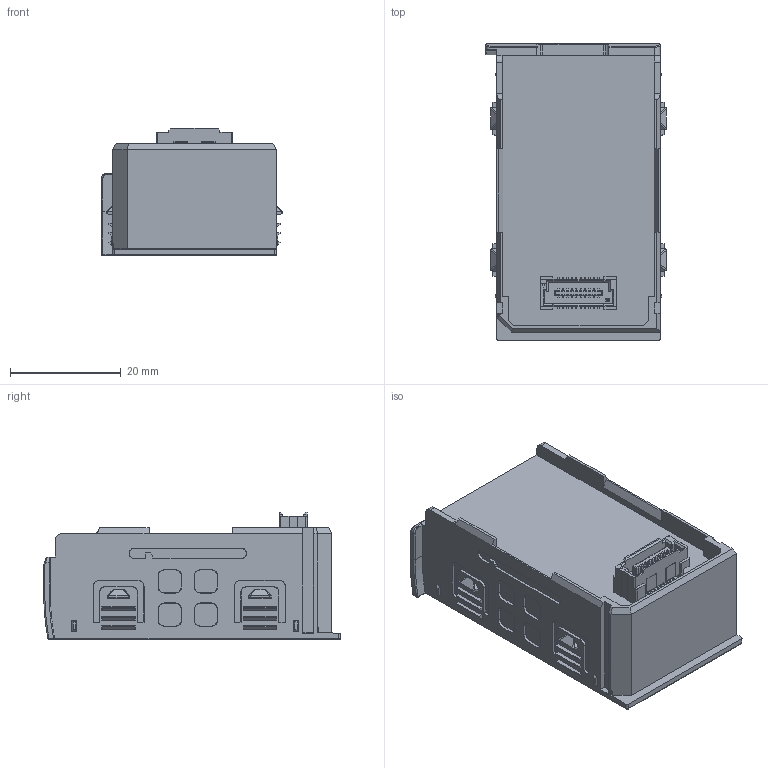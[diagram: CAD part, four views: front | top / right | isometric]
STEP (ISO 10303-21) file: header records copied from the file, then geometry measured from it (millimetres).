
FILE_DESCRIPTION((''),'2;1');
FILE_NAME('GE20_TF_WX','2022-05-24T',('10002586'),(''),'CREO PARAMETRIC BY PTC INC, 2015290','CREO PARAMETRIC BY PTC INC, 2015290','');
FILE_SCHEMA(('CONFIG_CONTROL_DESIGN'));
Products named in the file (1): GE20_TF_WX
Bounding box: 32.6 x 53.5 x 22.95 mm (x, y, z)
Volume: 25673.9 mm3; surface area: 7696.5 mm2
Topology: 1 solids, 1 shells, 1579 faces, 4623 edges, 2990 vertices
Faces by surface type: plane 1322, cylinder 161, cone 56, extrusion 16, bspline 11, torus 10, sphere 3
Entity records: 64411 total; most frequent: CARTESIAN_POINT 11162, ORIENTED_EDGE 9246, DIRECTION 8087, EDGE_CURVE 4623, VECTOR 4141, LINE 4125, VERTEX_POINT 2990, AXIS2_PLACEMENT_3D 1973
